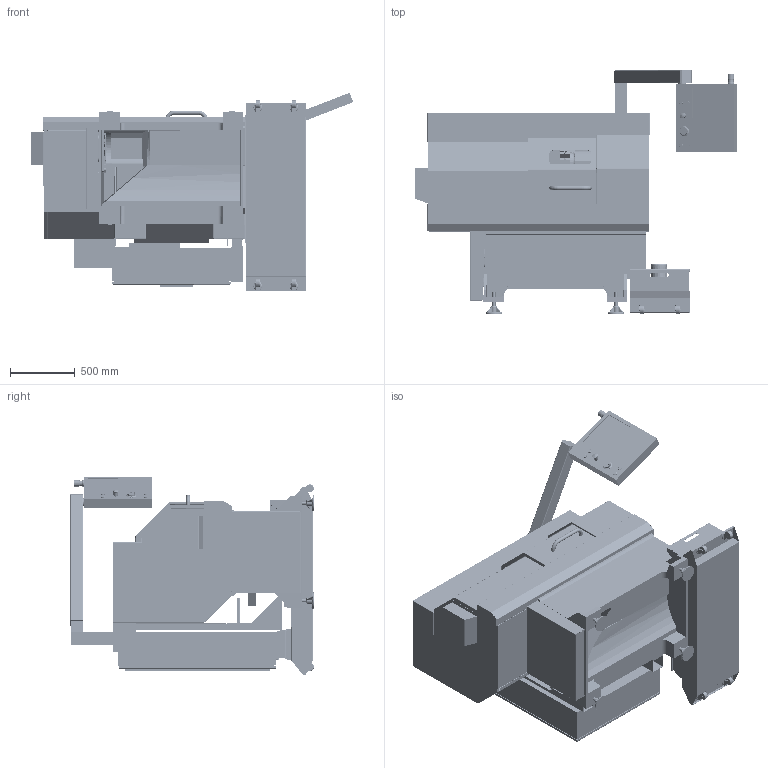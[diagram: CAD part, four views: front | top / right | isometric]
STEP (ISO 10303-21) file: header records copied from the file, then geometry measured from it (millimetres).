
FILE_DESCRIPTION (( 'STEP AP203' ), '1' );
FILE_NAME ('Pocket Lathe 05-27-2026.STEP', '2026-05-27T17:49:20', ( '' ), ( '' ), 'SwSTEP 2.0', 'SolidWorks 2025', '' );
FILE_SCHEMA (( 'CONFIG_CONTROL_DESIGN' ));
Length unit declared in the file: inch
Products named in the file (17): Cross Slide Waycovers; Spindle Head; 8 Station Turret; Enclosure; Gang Tool Riser; Control Panel; Coolant Tank; Z-axis Waycover; Cross Slide; 6 Inch Chuck; Door; Electrical Cabinet; Metric Tooling Kit; Base; Pocket Lathe 05-27-2026; Wedge; Inch Tooling Kit
Assembly tree (16 placements, depth 2):
  Pocket Lathe 05-27-2026
    Base
    Control Panel
    Electrical Cabinet
    Enclosure
    Gang Tool Riser
    Wedge
    8 Station Turret
    Coolant Tank
    Door
    Spindle Head
    6 Inch Chuck
    Cross Slide
    Z-axis Waycover
    Cross Slide Waycovers
    Inch Tooling Kit
    Metric Tooling Kit
Bounding box: 2496.69 x 1886.99 x 1537.51 mm (x, y, z)
Volume: 659974850.1 mm3; surface area: 50136020.7 mm2
Topology: 176 solids, 180 shells, 10651 faces, 26350 edges, 16202 vertices
Faces by surface type: plane 4591, cylinder 3880, cone 1208, bspline 619, torus 257, sphere 96
Entity records: 382553 total; most frequent: CARTESIAN_POINT 137413, ORIENTED_EDGE 52164, DIRECTION 49072, EDGE_CURVE 26082, AXIS2_PLACEMENT_3D 17239, VERTEX_POINT 16194, VECTOR 14594, LINE 14594
